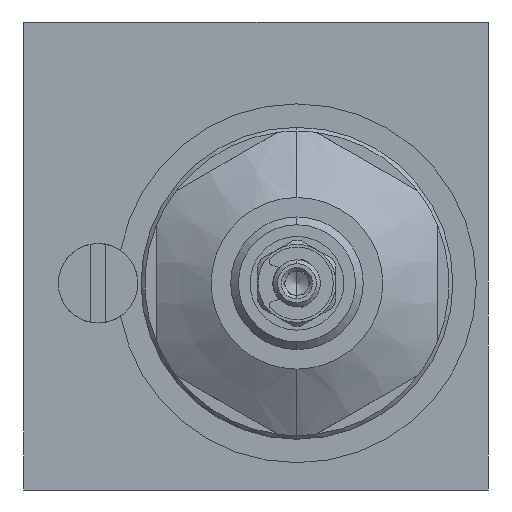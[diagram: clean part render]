
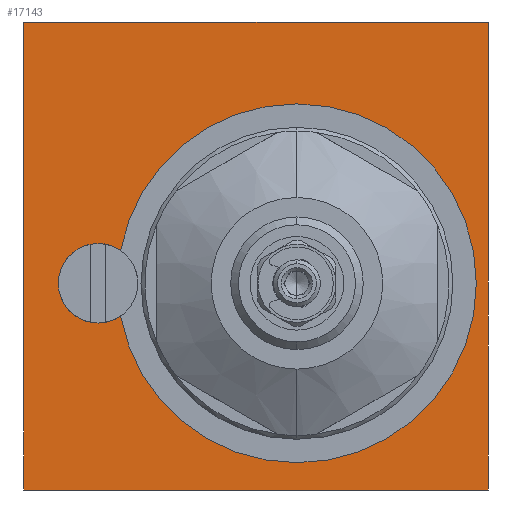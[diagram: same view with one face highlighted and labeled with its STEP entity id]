
A CAD part, left-side view. The second image highlights one B-rep face of the part: STEP entity #17143.
In plain terms, the highlighted planar face has unit normal (-1, 0, 0).
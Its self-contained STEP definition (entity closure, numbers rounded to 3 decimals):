
#152 = DIRECTION ( 'NONE',  ( 0., 0., 1. ) ) ;
#328 = ORIENTED_EDGE ( 'NONE', *, *, #12176, .F. ) ;
#594 = DIRECTION ( 'NONE',  ( 0., 0., 1. ) ) ;
#832 = VERTEX_POINT ( 'NONE', #23392 ) ;
#933 = DIRECTION ( 'NONE',  ( -1., 0., 0. ) ) ;
#940 = ORIENTED_EDGE ( 'NONE', *, *, #25828, .F. ) ;
#1602 = ORIENTED_EDGE ( 'NONE', *, *, #12331, .F. ) ;
#1818 = LINE ( 'NONE', #8419, #6297 ) ;
#2013 = AXIS2_PLACEMENT_3D ( 'NONE', #9211, #23880, #11234 ) ;
#2017 = CARTESIAN_POINT ( 'NONE',  ( 0., -29.75, -30. ) ) ;
#2213 = VERTEX_POINT ( 'NONE', #17279 ) ;
#2479 = EDGE_CURVE ( 'NONE', #23873, #9576, #24059, .T. ) ;
#2596 = EDGE_CURVE ( 'NONE', #9576, #832, #24195, .T. ) ;
#2821 = EDGE_LOOP ( 'NONE', ( #13833, #3797, #15830, #13187, #940, #1602 ) ) ;
#2843 = ORIENTED_EDGE ( 'NONE', *, *, #11840, .F. ) ;
#2847 = VERTEX_POINT ( 'NONE', #18856 ) ;
#2853 = CARTESIAN_POINT ( 'NONE',  ( 0., 20.25, 1.6 ) ) ;
#3126 = CARTESIAN_POINT ( 'NONE',  ( 0., -5.25, -3.5 ) ) ;
#3185 = VERTEX_POINT ( 'NONE', #20699 ) ;
#3344 = CIRCLE ( 'NONE', #2013, 23. ) ;
#3776 = CARTESIAN_POINT ( 'NONE',  ( 0., 17.363, -7.704 ) ) ;
#3797 = ORIENTED_EDGE ( 'NONE', *, *, #2596, .F. ) ;
#3804 = CIRCLE ( 'NONE', #19282, 5.1 ) ;
#4339 = CARTESIAN_POINT ( 'NONE',  ( 0., 20.25, -3.5 ) ) ;
#4405 = ORIENTED_EDGE ( 'NONE', *, *, #12093, .F. ) ;
#5018 = ORIENTED_EDGE ( 'NONE', *, *, #11973, .F. ) ;
#5592 = DIRECTION ( 'NONE',  ( -1., 0., 0. ) ) ;
#6031 = DIRECTION ( 'NONE',  ( 0., 1., 0. ) ) ;
#6211 = CARTESIAN_POINT ( 'NONE',  ( 0., 29.75, 30. ) ) ;
#6297 = VECTOR ( 'NONE', #10351, 1000. ) ;
#6348 = DIRECTION ( 'NONE',  ( 0., 0., 1. ) ) ;
#7529 = AXIS2_PLACEMENT_3D ( 'NONE', #17871, #5592, #20073 ) ;
#7573 = VECTOR ( 'NONE', #6031, 1000. ) ;
#8362 = FACE_BOUND ( 'NONE', #2821, .T. ) ;
#8419 = CARTESIAN_POINT ( 'NONE',  ( 0., -29.75, 30. ) ) ;
#8495 = FACE_OUTER_BOUND ( 'NONE', #22435, .T. ) ;
#8857 = DIRECTION ( 'NONE',  ( -1., 0., 0. ) ) ;
#9087 = CARTESIAN_POINT ( 'NONE',  ( 0., -5.25, 19.5 ) ) ;
#9161 = VERTEX_POINT ( 'NONE', #25623 ) ;
#9211 = CARTESIAN_POINT ( 'NONE',  ( 0., -5.25, -3.5 ) ) ;
#9390 = VECTOR ( 'NONE', #20062, 1000. ) ;
#9576 = VERTEX_POINT ( 'NONE', #9087 ) ;
#9752 = LINE ( 'NONE', #24441, #9390 ) ;
#10264 = DIRECTION ( 'NONE',  ( 0., 0., 1. ) ) ;
#10351 = DIRECTION ( 'NONE',  ( 0., 0., -1. ) ) ;
#11234 = DIRECTION ( 'NONE',  ( 0., 0., 1. ) ) ;
#11399 = EDGE_CURVE ( 'NONE', #11847, #23873, #3344, .T. ) ;
#11840 = EDGE_CURVE ( 'NONE', #3185, #9161, #9752, .T. ) ;
#11847 = VERTEX_POINT ( 'NONE', #3776 ) ;
#11973 = EDGE_CURVE ( 'NONE', #2847, #2213, #23174, .T. ) ;
#12093 = EDGE_CURVE ( 'NONE', #2213, #3185, #15099, .T. ) ;
#12160 = DIRECTION ( 'NONE',  ( -1., 0., 0. ) ) ;
#12176 = EDGE_CURVE ( 'NONE', #9161, #2847, #1818, .T. ) ;
#12331 = EDGE_CURVE ( 'NONE', #14883, #26316, #3804, .T. ) ;
#13083 = CARTESIAN_POINT ( 'NONE',  ( 0., 20.25, -8.6 ) ) ;
#13187 = ORIENTED_EDGE ( 'NONE', *, *, #11399, .F. ) ;
#13777 = AXIS2_PLACEMENT_3D ( 'NONE', #4339, #18657, #6348 ) ;
#13833 = ORIENTED_EDGE ( 'NONE', *, *, #25924, .F. ) ;
#13923 = AXIS2_PLACEMENT_3D ( 'NONE', #24863, #12160, #152 ) ;
#14883 = VERTEX_POINT ( 'NONE', #2853 ) ;
#14917 = VECTOR ( 'NONE', #10264, 1000. ) ;
#15099 = LINE ( 'NONE', #6211, #14917 ) ;
#15581 = PLANE ( 'NONE',  #7529 ) ;
#15734 = CIRCLE ( 'NONE', #13777, 5.1 ) ;
#15830 = ORIENTED_EDGE ( 'NONE', *, *, #2479, .F. ) ;
#16463 = CIRCLE ( 'NONE', #13923, 5.1 ) ;
#17143 = ADVANCED_FACE ( 'NONE', ( #8362, #8495 ), #15581, .T. ) ;
#17279 = CARTESIAN_POINT ( 'NONE',  ( 0., 29.75, -30. ) ) ;
#17871 = CARTESIAN_POINT ( 'NONE',  ( 0., 29.75, -30. ) ) ;
#18657 = DIRECTION ( 'NONE',  ( -1., 0., 0. ) ) ;
#18791 = CARTESIAN_POINT ( 'NONE',  ( 0., -5.25, -26.5 ) ) ;
#18856 = CARTESIAN_POINT ( 'NONE',  ( 0., -29.75, -30. ) ) ;
#19282 = AXIS2_PLACEMENT_3D ( 'NONE', #21345, #8857, #23510 ) ;
#20062 = DIRECTION ( 'NONE',  ( 0., -1., 0. ) ) ;
#20073 = DIRECTION ( 'NONE',  ( 0., 0., 1. ) ) ;
#20699 = CARTESIAN_POINT ( 'NONE',  ( 0., 29.75, 30. ) ) ;
#21345 = CARTESIAN_POINT ( 'NONE',  ( 0., 20.25, -3.5 ) ) ;
#22223 = DIRECTION ( 'NONE',  ( 0., 0., 1. ) ) ;
#22315 = DIRECTION ( 'NONE',  ( -1., 0., 0. ) ) ;
#22426 = CARTESIAN_POINT ( 'NONE',  ( 0., -5.25, -3.5 ) ) ;
#22435 = EDGE_LOOP ( 'NONE', ( #5018, #328, #2843, #4405 ) ) ;
#23174 = LINE ( 'NONE', #2017, #7573 ) ;
#23392 = CARTESIAN_POINT ( 'NONE',  ( 0., 17.363, 0.704 ) ) ;
#23510 = DIRECTION ( 'NONE',  ( 0., 0., 1. ) ) ;
#23873 = VERTEX_POINT ( 'NONE', #18791 ) ;
#23880 = DIRECTION ( 'NONE',  ( -1., 0., 0. ) ) ;
#24059 = CIRCLE ( 'NONE', #24990, 23. ) ;
#24195 = CIRCLE ( 'NONE', #24864, 23. ) ;
#24441 = CARTESIAN_POINT ( 'NONE',  ( 0., -29.75, 30. ) ) ;
#24863 = CARTESIAN_POINT ( 'NONE',  ( 0., 20.25, -3.5 ) ) ;
#24864 = AXIS2_PLACEMENT_3D ( 'NONE', #3126, #933, #594 ) ;
#24990 = AXIS2_PLACEMENT_3D ( 'NONE', #22426, #22315, #22223 ) ;
#25623 = CARTESIAN_POINT ( 'NONE',  ( 0., -29.75, 30. ) ) ;
#25828 = EDGE_CURVE ( 'NONE', #26316, #11847, #16463, .T. ) ;
#25924 = EDGE_CURVE ( 'NONE', #832, #14883, #15734, .T. ) ;
#26316 = VERTEX_POINT ( 'NONE', #13083 ) ;
